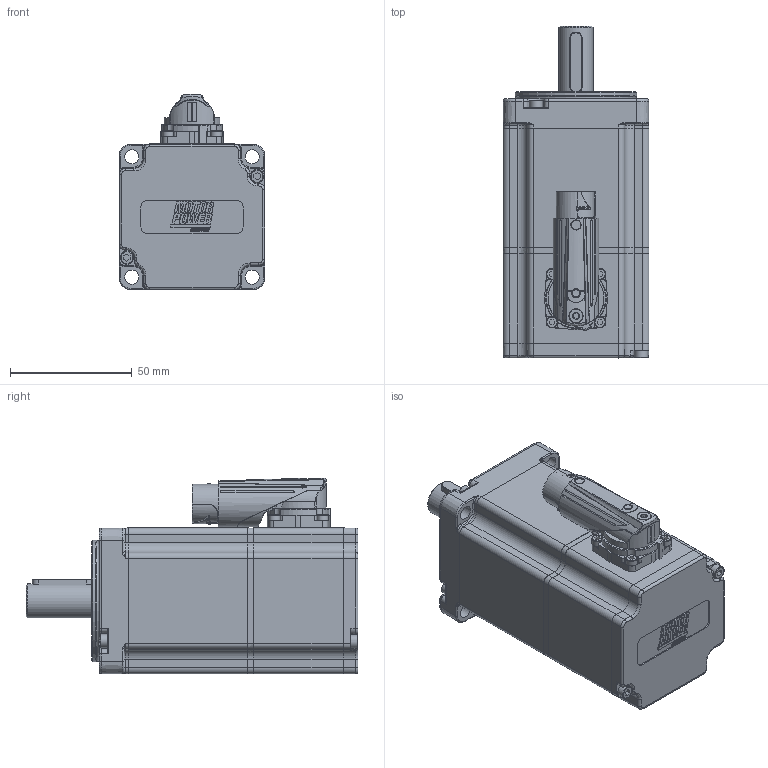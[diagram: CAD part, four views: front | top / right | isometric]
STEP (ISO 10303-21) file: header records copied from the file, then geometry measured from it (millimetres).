
FILE_DESCRIPTION(/* description */ ('Unknown'),/* implementation_level */ '2;1');
FILE_NAME(/* name */ 'TC4-60.2A.XX.X.3.XX.0.1.G11.39.71 Q0C136',/* time_stamp */ '2026-03-03T16:45:38+01:00',/* author */ ('Unknown'),/* organization */ ('Unknown'),/* preprocessor_version */ 'ST-DEVELOPER v19.4',/* originating_system */ 'Solid Edge',/* authorisation */ 'Unknown');
FILE_SCHEMA (('AUTOMOTIVE_DESIGN {1 0 10303 214 3 1 1}'));
Products named in the file (14): Q0C136 60 2A M1 VUOTO; 005911000171; 005119001310; 003103040220; 005911000278; 005911000192; 005113000400; 003155002197; 007117002067; 003107003285; 003151003163; 005911000495; 003251040722; 003003200404
Assembly tree (23 placements, depth 2):
  Q0C136 60 2A M1 VUOTO
    005911000171  x4
    005119001310
    003103040220
    005911000278  x4
    005911000192  x2
    005113000400
    003155002197
    007117002067
    003107003285
    003151003163
    005911000495  x4
    003251040722
    003003200404
Bounding box: 60 x 136.5 x 80.49 mm (x, y, z)
Volume: 147452.1 mm3; surface area: 94397.7 mm2
Topology: 24 solids, 25 shells, 1946 faces, 4825 edges, 3054 vertices
Faces by surface type: plane 862, cylinder 474, bspline 285, cone 149, torus 148, sphere 28
Full cylindrical faces by diameter (mm): 1 x9, 1.8 x5, 2 x5, 2.013 x12, 2.05 x1, 2.459 x16, 2.5 x9, 2.6 x3, 2.7 x4, 3 x11, 3.06 x1, 3.2 x2, 3.5 x8, 4 x1, 4.134 x1, 4.7 x4, 5 x4, 5.25 x5, 5.5 x7, 5.8 x5, 6 x1, 9.99 x1, 10 x1, 13 x2, 14 x2, 14.99 x1, 15 x1, 16.2 x1, 17.025 x1, 18 x1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
Entity records: 67790 total; most frequent: CARTESIAN_POINT 19188, ORIENTED_EDGE 8204, DIRECTION 7550, EDGE_CURVE 4102, AXIS2_PLACEMENT_3D 2803, VERTEX_POINT 2771, FACE_BOUND 2299, EDGE_LOOP 2283
